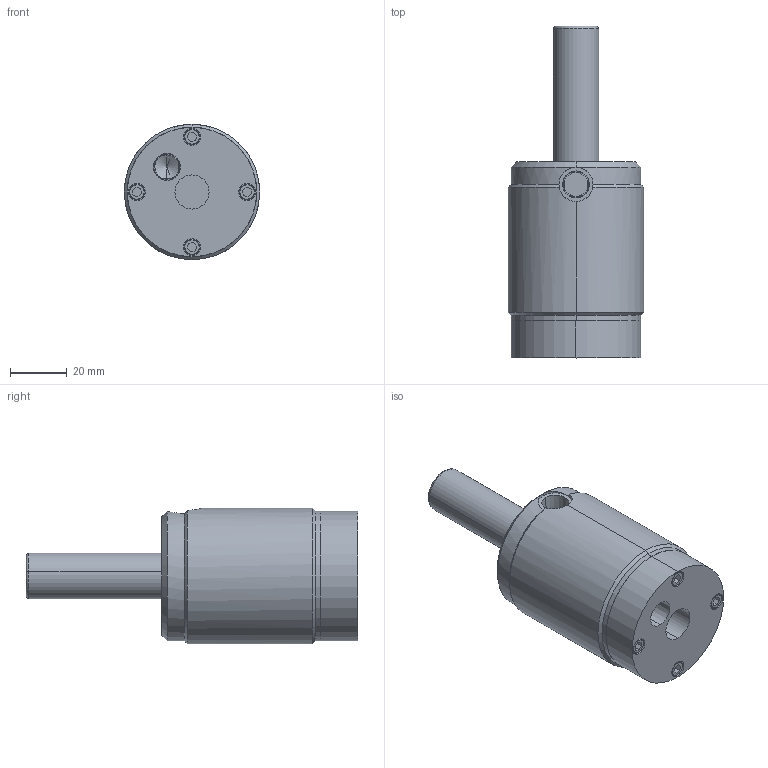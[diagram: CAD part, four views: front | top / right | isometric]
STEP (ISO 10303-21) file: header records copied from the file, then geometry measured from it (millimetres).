
FILE_DESCRIPTION((''),'2;1');
FILE_NAME('001_DESTACO_035_910_ASM','2024-02-29T',('SYSTEM'),(''),'PRO/ENGINEER BY PARAMETRIC TECHNOLOGY CORPORATION, 2016360','PRO/ENGINEER BY PARAMETRIC TECHNOLOGY CORPORATION, 2016360','');
FILE_SCHEMA(('AUTOMOTIVE_DESIGN { 1 0 10303 214 1 1 1 1 }'));
Products named in the file (10): 132BODY_5_RNM; 132BODY_4_RNM; 132BODY_3_RNM; 132BODY_2_RNM; 132BODY_1_RNM; 132BODY_0_RNM; 132-BODY_ASM; 132BODY_6_RNM; 132-SHAFT_ASM; 001_DESTACO_035_910_ASM
Assembly tree (9 placements, depth 3):
  001_DESTACO_035_910_ASM
    132-BODY_ASM
      132BODY_5_RNM
      132BODY_4_RNM
      132BODY_3_RNM
      132BODY_2_RNM
      132BODY_1_RNM
      132BODY_0_RNM
    132-SHAFT_ASM
      132BODY_6_RNM
Bounding box: 47.62 x 116.75 x 47.62 mm (x, y, z)
Volume: 118238.7 mm3; surface area: 26051.8 mm2
Topology: 7 solids, 7 shells, 158 faces, 344 edges, 209 vertices
Faces by surface type: cylinder 62, plane 54, cone 40, torus 2
Entity records: 6085 total; most frequent: CARTESIAN_POINT 868, DIRECTION 848, ORIENTED_EDGE 664, PRESENTATION_STYLE_ASSIGNMENT 339, STYLED_ITEM 339, AXIS2_PLACEMENT_3D 338, CURVE_STYLE 332, EDGE_CURVE 332
